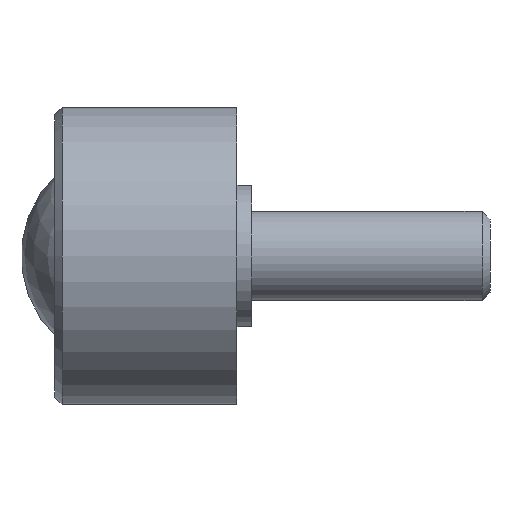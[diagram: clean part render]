
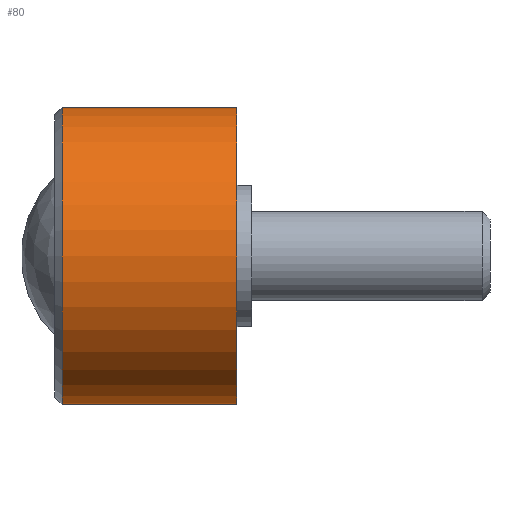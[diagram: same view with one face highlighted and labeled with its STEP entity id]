
A CAD part, left-side view. The second image highlights one B-rep face of the part: STEP entity #80.
In plain terms, the highlighted cylindrical face has radius 20 mm (diameter 40 mm), a full revolution.
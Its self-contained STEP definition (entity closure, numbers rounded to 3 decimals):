
#80 = ADVANCED_FACE( '', ( #105, #106, #107 ), #108, .T. );
#105 = FACE_OUTER_BOUND( '', #146, .T. );
#106 = FACE_BOUND( '', #147, .T. );
#107 = FACE_OUTER_BOUND( '', #148, .T. );
#108 = CYLINDRICAL_SURFACE( '', #149, 20. );
#146 = EDGE_LOOP( '', ( #197 ) );
#147 = EDGE_LOOP( '', ( #198 ) );
#148 = EDGE_LOOP( '', ( #199 ) );
#149 = AXIS2_PLACEMENT_3D( '', #200, #201, #202 );
#197 = ORIENTED_EDGE( '', *, *, #246, .F. );
#198 = ORIENTED_EDGE( '', *, *, #247, .F. );
#199 = ORIENTED_EDGE( '', *, *, #248, .T. );
#200 = CARTESIAN_POINT( '', ( 0., 0., 0. ) );
#201 = DIRECTION( '', ( 0., 1., 0. ) );
#202 = DIRECTION( '', ( 0., 0., -1. ) );
#246 = EDGE_CURVE( '', #265, #265, #266, .T. );
#247 = EDGE_CURVE( '', #267, #267, #268, .T. );
#248 = EDGE_CURVE( '', #269, #269, #270, .T. );
#265 = VERTEX_POINT( '', #291 );
#266 = CIRCLE( '', #292, 20. );
#267 = VERTEX_POINT( '', #293 );
#268 = B_SPLINE_CURVE_WITH_KNOTS( '', 3, ( #294, #295, #296, #297, #298, #299, #300, #301, #302, #303, #304, #305, #306, #307, #308, #309, #310, #311, #312, #313, #314, #315, #316, #317, #318, #319, #320, #321, #322, #323, #324, #325, #326, #327, #328, #329, #330, #331, #332, #333, #334, #335, #336, #337, #338, #339, #340, #341, #342, #343, #344, #345, #346, #347, #348, #349, #350, #351, #352, #353, #354, #355, #356, #357, #358, #359, #360, #361, #362, #363, #364, #365, #366, #367, #368, #369, #370, #371, #372, #373, #374, #375, #376, #377 ), .UNSPECIFIED., .T., .F., ( 2, 2, 2, 2, 2, 2, 2, 2, 2, 2, 2, 2, 2, 2, 2, 2, 2, 2, 2, 2, 2, 2, 2, 2, 2, 2, 2, 2, 2, 2, 2, 2, 2, 2, 2, 2, 2, 2, 2, 2, 2, 2, 2, 2 ), ( -0.001, 0., 0.001, 0.002, 0.002, 0.004, 0.004, 0.005, 0.006, 0.007, 0.008, 0.008, 0.009, 0.011, 0.012, 0.013, 0.014, 0.014, 0.015, 0.017, 0.018, 0.018, 0.019, 0.02, 0.021, 0.022, 0.024, 0.024, 0.025, 0.026, 0.027, 0.028, 0.028, 0.029, 0.03, 0.031, 0.032, 0.033, 0.034, 0.034, 0.035, 0.037, 0.038, 0.039 ), .UNSPECIFIED. );
#269 = VERTEX_POINT( '', #378 );
#270 = CIRCLE( '', #379, 20. );
#291 = CARTESIAN_POINT( '', ( 0., 2., -20. ) );
#292 = AXIS2_PLACEMENT_3D( '', #405, #406, #407 );
#293 = CARTESIAN_POINT( '', ( 19.079, 16., 6. ) );
#294 = CARTESIAN_POINT( '', ( 19.079, 16.399, 6. ) );
#295 = CARTESIAN_POINT( '', ( 19.079, 15.601, 6. ) );
#296 = CARTESIAN_POINT( '', ( 19.091, 15.209, 5.961 ) );
#297 = CARTESIAN_POINT( '', ( 19.127, 14.632, 5.845 ) );
#298 = CARTESIAN_POINT( '', ( 19.141, 14.441, 5.797 ) );
#299 = CARTESIAN_POINT( '', ( 19.176, 14.063, 5.682 ) );
#300 = CARTESIAN_POINT( '', ( 19.196, 13.876, 5.615 ) );
#301 = CARTESIAN_POINT( '', ( 19.261, 13.332, 5.388 ) );
#302 = CARTESIAN_POINT( '', ( 19.312, 12.988, 5.204 ) );
#303 = CARTESIAN_POINT( '', ( 19.396, 12.5, 4.878 ) );
#304 = CARTESIAN_POINT( '', ( 19.426, 12.342, 4.76 ) );
#305 = CARTESIAN_POINT( '', ( 19.485, 12.039, 4.511 ) );
#306 = CARTESIAN_POINT( '', ( 19.515, 11.894, 4.38 ) );
#307 = CARTESIAN_POINT( '', ( 19.605, 11.482, 3.967 ) );
#308 = CARTESIAN_POINT( '', ( 19.664, 11.234, 3.667 ) );
#309 = CARTESIAN_POINT( '', ( 19.775, 10.796, 3.011 ) );
#310 = CARTESIAN_POINT( '', ( 19.825, 10.611, 2.666 ) );
#311 = CARTESIAN_POINT( '', ( 19.888, 10.386, 2.125 ) );
#312 = CARTESIAN_POINT( '', ( 19.906, 10.319, 1.941 ) );
#313 = CARTESIAN_POINT( '', ( 19.94, 10.204, 1.564 ) );
#314 = CARTESIAN_POINT( '', ( 19.954, 10.155, 1.37 ) );
#315 = CARTESIAN_POINT( '', ( 19.988, 10.039, 0.789 ) );
#316 = CARTESIAN_POINT( '', ( 20., 10., 0.398 ) );
#317 = CARTESIAN_POINT( '', ( 20., 10., -0.39 ) );
#318 = CARTESIAN_POINT( '', ( 19.988, 10.039, -0.79 ) );
#319 = CARTESIAN_POINT( '', ( 19.943, 10.193, -1.562 ) );
#320 = CARTESIAN_POINT( '', ( 19.909, 10.308, -1.937 ) );
#321 = CARTESIAN_POINT( '', ( 19.825, 10.611, -2.666 ) );
#322 = CARTESIAN_POINT( '', ( 19.774, 10.797, -3.014 ) );
#323 = CARTESIAN_POINT( '', ( 19.692, 11.122, -3.499 ) );
#324 = CARTESIAN_POINT( '', ( 19.664, 11.239, -3.656 ) );
#325 = CARTESIAN_POINT( '', ( 19.605, 11.487, -3.958 ) );
#326 = CARTESIAN_POINT( '', ( 19.575, 11.62, -4.105 ) );
#327 = CARTESIAN_POINT( '', ( 19.485, 12.035, -4.52 ) );
#328 = CARTESIAN_POINT( '', ( 19.425, 12.335, -4.767 ) );
#329 = CARTESIAN_POINT( '', ( 19.313, 12.983, -5.201 ) );
#330 = CARTESIAN_POINT( '', ( 19.261, 13.335, -5.39 ) );
#331 = CARTESIAN_POINT( '', ( 19.174, 14.058, -5.69 ) );
#332 = CARTESIAN_POINT( '', ( 19.139, 14.432, -5.805 ) );
#333 = CARTESIAN_POINT( '', ( 19.103, 15.013, -5.921 ) );
#334 = CARTESIAN_POINT( '', ( 19.094, 15.211, -5.951 ) );
#335 = CARTESIAN_POINT( '', ( 19.082, 15.604, -5.99 ) );
#336 = CARTESIAN_POINT( '', ( 19.079, 15.801, -6. ) );
#337 = CARTESIAN_POINT( '', ( 19.079, 16.39, -6. ) );
#338 = CARTESIAN_POINT( '', ( 19.091, 16.784, -5.962 ) );
#339 = CARTESIAN_POINT( '', ( 19.139, 17.564, -5.806 ) );
#340 = CARTESIAN_POINT( '', ( 19.174, 17.939, -5.692 ) );
#341 = CARTESIAN_POINT( '', ( 19.26, 18.662, -5.391 ) );
#342 = CARTESIAN_POINT( '', ( 19.313, 19.013, -5.203 ) );
#343 = CARTESIAN_POINT( '', ( 19.424, 19.662, -4.769 ) );
#344 = CARTESIAN_POINT( '', ( 19.484, 19.963, -4.522 ) );
#345 = CARTESIAN_POINT( '', ( 19.574, 20.379, -4.107 ) );
#346 = CARTESIAN_POINT( '', ( 19.605, 20.512, -3.96 ) );
#347 = CARTESIAN_POINT( '', ( 19.663, 20.76, -3.658 ) );
#348 = CARTESIAN_POINT( '', ( 19.692, 20.876, -3.502 ) );
#349 = CARTESIAN_POINT( '', ( 19.774, 21.201, -3.017 ) );
#350 = CARTESIAN_POINT( '', ( 19.824, 21.387, -2.672 ) );
#351 = CARTESIAN_POINT( '', ( 19.909, 21.691, -1.94 ) );
#352 = CARTESIAN_POINT( '', ( 19.942, 21.806, -1.565 ) );
#353 = CARTESIAN_POINT( '', ( 19.977, 21.921, -0.988 ) );
#354 = CARTESIAN_POINT( '', ( 19.985, 21.951, -0.794 ) );
#355 = CARTESIAN_POINT( '', ( 19.997, 21.99, -0.399 ) );
#356 = CARTESIAN_POINT( '', ( 20., 22., -0.199 ) );
#357 = CARTESIAN_POINT( '', ( 20., 22., 0.394 ) );
#358 = CARTESIAN_POINT( '', ( 19.988, 21.961, 0.785 ) );
#359 = CARTESIAN_POINT( '', ( 19.954, 21.846, 1.365 ) );
#360 = CARTESIAN_POINT( '', ( 19.94, 21.798, 1.558 ) );
#361 = CARTESIAN_POINT( '', ( 19.907, 21.682, 1.937 ) );
#362 = CARTESIAN_POINT( '', ( 19.888, 21.616, 2.122 ) );
#363 = CARTESIAN_POINT( '', ( 19.825, 21.39, 2.664 ) );
#364 = CARTESIAN_POINT( '', ( 19.775, 21.206, 3.009 ) );
#365 = CARTESIAN_POINT( '', ( 19.664, 20.767, 3.665 ) );
#366 = CARTESIAN_POINT( '', ( 19.605, 20.519, 3.966 ) );
#367 = CARTESIAN_POINT( '', ( 19.515, 20.107, 4.379 ) );
#368 = CARTESIAN_POINT( '', ( 19.485, 19.962, 4.51 ) );
#369 = CARTESIAN_POINT( '', ( 19.426, 19.659, 4.759 ) );
#370 = CARTESIAN_POINT( '', ( 19.397, 19.501, 4.877 ) );
#371 = CARTESIAN_POINT( '', ( 19.313, 19.013, 5.204 ) );
#372 = CARTESIAN_POINT( '', ( 19.261, 18.669, 5.388 ) );
#373 = CARTESIAN_POINT( '', ( 19.174, 17.946, 5.689 ) );
#374 = CARTESIAN_POINT( '', ( 19.139, 17.563, 5.806 ) );
#375 = CARTESIAN_POINT( '', ( 19.091, 16.791, 5.961 ) );
#376 = CARTESIAN_POINT( '', ( 19.079, 16.399, 6. ) );
#377 = CARTESIAN_POINT( '', ( 19.079, 15.601, 6. ) );
#378 = CARTESIAN_POINT( '', ( 0., 25.5, -20. ) );
#379 = AXIS2_PLACEMENT_3D( '', #408, #409, #410 );
#405 = CARTESIAN_POINT( '', ( 0., 2., 0. ) );
#406 = DIRECTION( '', ( 0., -1., 0. ) );
#407 = DIRECTION( '', ( 0., 0., -1. ) );
#408 = CARTESIAN_POINT( '', ( 0., 25.5, 0. ) );
#409 = DIRECTION( '', ( 0., -1., 0. ) );
#410 = DIRECTION( '', ( 0., 0., -1. ) );
